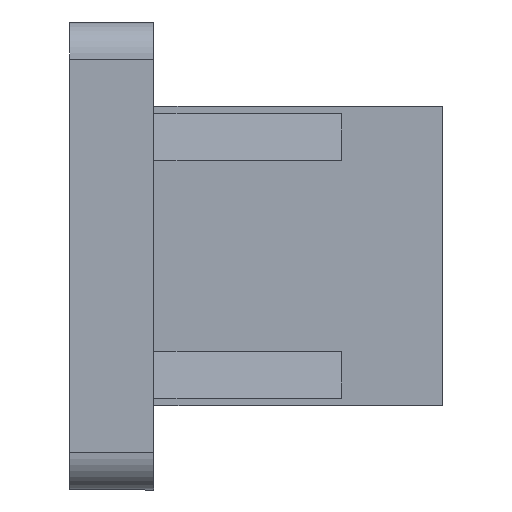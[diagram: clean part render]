
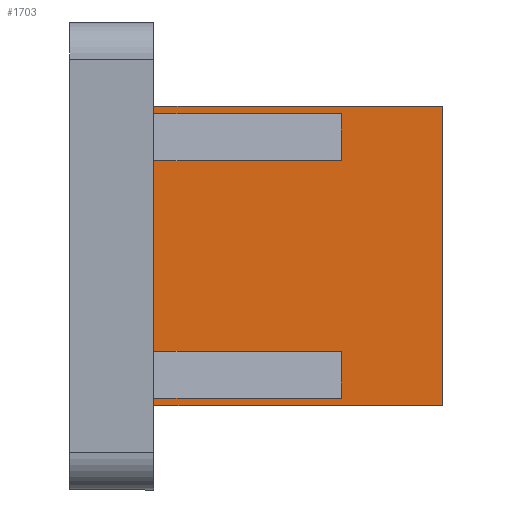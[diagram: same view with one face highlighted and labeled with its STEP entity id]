
A CAD part, left-side view. The second image highlights one B-rep face of the part: STEP entity #1703.
In plain terms, the highlighted planar face has unit normal (-1, 0, 0).
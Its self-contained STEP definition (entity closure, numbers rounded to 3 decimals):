
#68 = LINE ( 'NONE', #2423, #69 ) ;
#69 = VECTOR ( 'NONE', #2422, 1000. ) ;
#241 = LINE ( 'NONE', #2187, #244 ) ;
#244 = VECTOR ( 'NONE', #2188, 1000. ) ;
#247 = LINE ( 'NONE', #2191, #248 ) ;
#248 = VECTOR ( 'NONE', #2192, 1000. ) ;
#306 = FACE_OUTER_BOUND ( 'NONE', #2100, .T. ) ;
#675 = CARTESIAN_POINT ( 'NONE',  ( -91.3, 15., -8. ) ) ;
#709 = DIRECTION ( 'NONE',  ( 0., 0., -1. ) ) ;
#716 = CARTESIAN_POINT ( 'NONE',  ( -91.3, 15., 8. ) ) ;
#766 = DIRECTION ( 'NONE',  ( 0., 1., 0. ) ) ;
#767 = DIRECTION ( 'NONE',  ( 1., 0., 0. ) ) ;
#770 = PLANE ( 'NONE',  #2770 ) ;
#771 = CARTESIAN_POINT ( 'NONE',  ( -91.3, -0.4, 8. ) ) ;
#781 = CARTESIAN_POINT ( 'NONE',  ( -91.3, 15., 8. ) ) ;
#811 = CARTESIAN_POINT ( 'NONE',  ( -91.3, -0.4, 8. ) ) ;
#823 = CARTESIAN_POINT ( 'NONE',  ( -91.3, -0.4, -8. ) ) ;
#906 = VERTEX_POINT ( 'NONE', #823 ) ;
#918 = VERTEX_POINT ( 'NONE', #811 ) ;
#952 = VERTEX_POINT ( 'NONE', #781 ) ;
#974 = VERTEX_POINT ( 'NONE', #675 ) ;
#1154 = ORIENTED_EDGE ( 'NONE', *, *, #2717, .F. ) ;
#1155 = ORIENTED_EDGE ( 'NONE', *, *, #2581, .T. ) ;
#1159 = ORIENTED_EDGE ( 'NONE', *, *, #2445, .T. ) ;
#1160 = ORIENTED_EDGE ( 'NONE', *, *, #2715, .F. ) ;
#1329 = VECTOR ( 'NONE', #709, 1000. ) ;
#1330 = LINE ( 'NONE', #716, #1329 ) ;
#1703 = ADVANCED_FACE ( 'NONE', ( #306 ), #770, .F. ) ;
#2100 = EDGE_LOOP ( 'NONE', ( #1155, #1154, #1160, #1159 ) ) ;
#2187 = CARTESIAN_POINT ( 'NONE',  ( -91.3, -0.4, 8. ) ) ;
#2188 = DIRECTION ( 'NONE',  ( 0., -1., 0. ) ) ;
#2191 = CARTESIAN_POINT ( 'NONE',  ( -91.3, -0.4, 8. ) ) ;
#2192 = DIRECTION ( 'NONE',  ( 0., 0., -1. ) ) ;
#2422 = DIRECTION ( 'NONE',  ( 0., -1., 0. ) ) ;
#2423 = CARTESIAN_POINT ( 'NONE',  ( -91.3, -0.4, -8. ) ) ;
#2445 = EDGE_CURVE ( 'NONE', #952, #974, #1330, .T. ) ;
#2581 = EDGE_CURVE ( 'NONE', #974, #906, #68, .T. ) ;
#2715 = EDGE_CURVE ( 'NONE', #952, #918, #241, .T. ) ;
#2717 = EDGE_CURVE ( 'NONE', #918, #906, #247, .T. ) ;
#2770 = AXIS2_PLACEMENT_3D ( 'NONE', #771, #767, #766 ) ;
